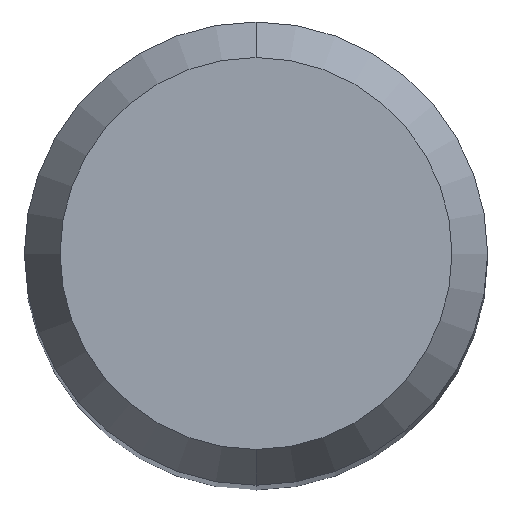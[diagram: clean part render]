
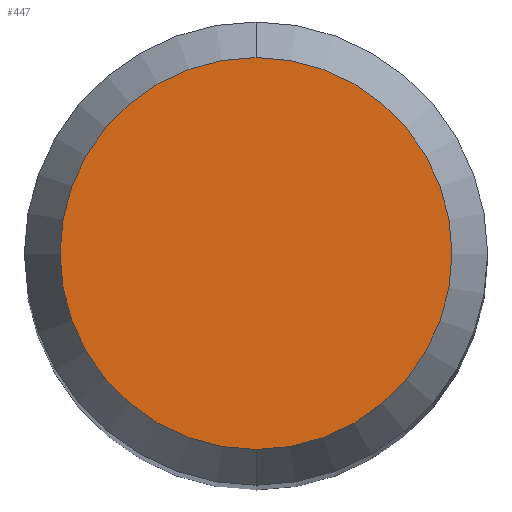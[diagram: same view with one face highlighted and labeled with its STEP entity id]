
A CAD part, top view. The second image highlights one B-rep face of the part: STEP entity #447.
In plain terms, the highlighted planar face has unit normal (0, 0, 1).
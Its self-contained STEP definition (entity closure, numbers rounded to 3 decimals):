
#295=EDGE_CURVE('',#397,#425,#707,.T.);
#397=VERTEX_POINT('',#823);
#415=EDGE_CURVE('',#425,#397,#844,.T.);
#425=VERTEX_POINT('',#855);
#447=ADVANCED_FACE('',(#878),#879,.T.);
#707=CIRCLE('',#1298,2.538);
#823=CARTESIAN_POINT('',(0.0,2.538,0.0));
#844=CIRCLE('',#1476,2.538);
#855=CARTESIAN_POINT('',(0.,-2.538,0.0));
#878=FACE_OUTER_BOUND('',#1527,.T.);
#879=PLANE('',#1528);
#1298=AXIS2_PLACEMENT_3D('',#1920,#1921,#1922);
#1476=AXIS2_PLACEMENT_3D('',#2088,#2089,#2090);
#1527=EDGE_LOOP('',(#2126,#2127));
#1528=AXIS2_PLACEMENT_3D('',#2128,#2129,#2130);
#1920=CARTESIAN_POINT('',(0.0,0.0,0.0));
#1921=DIRECTION('',(0.0,0.0,-1.0));
#1922=DIRECTION('',(0.0,1.0,0.0));
#2088=CARTESIAN_POINT('',(0.0,0.0,0.0));
#2089=DIRECTION('',(0.0,0.0,-1.0));
#2090=DIRECTION('',(0.0,1.0,0.0));
#2126=ORIENTED_EDGE('',*,*,#295,.F.);
#2127=ORIENTED_EDGE('',*,*,#415,.F.);
#2128=CARTESIAN_POINT('',(0.0,1.269,0.0));
#2129=DIRECTION('',(-0.0,0.0,1.0));
#2130=DIRECTION('',(0.0,-1.0,0.0));
